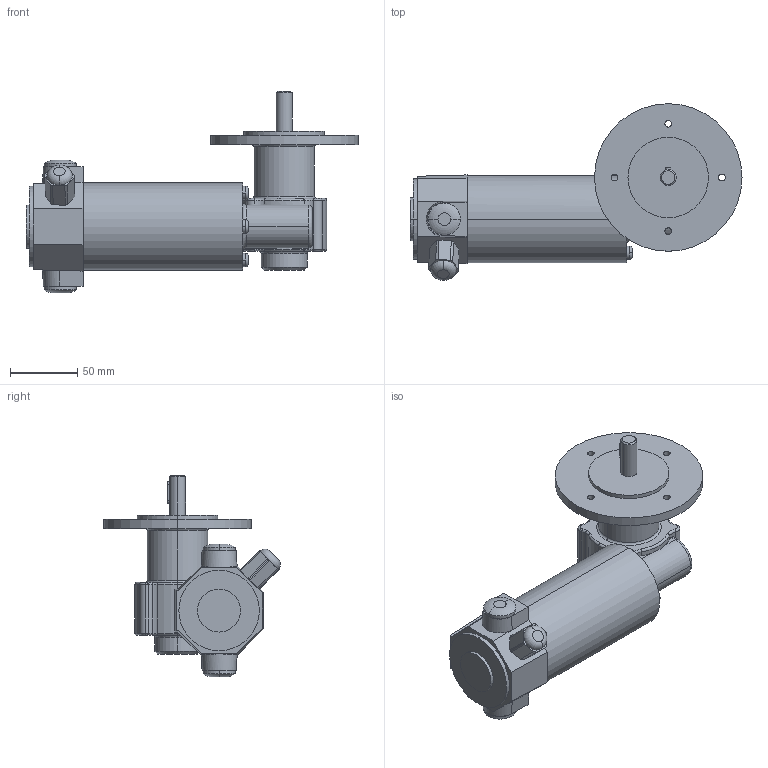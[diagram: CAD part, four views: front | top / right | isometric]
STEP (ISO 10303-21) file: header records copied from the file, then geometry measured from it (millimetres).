
FILE_DESCRIPTION(('OneSpaceDesigner STEP Export'),'2;1');
FILE_NAME('EPG04_GF125-10.stp','2008-07-02T13:32:36',(''),(''),'OneSpace Designer STEP processor (Jan. 2003) for AP214(CD)(Solid Model)','OneSpace Designer 12.01D 09-Jul-2004 (C) CoCreate Software GmbH','');
FILE_SCHEMA(('AUTOMOTIVE_DESIGN_CC2 {1 2 10303 214 -1 1 5 1}'));
Length unit declared in the file: millimetre
Products named in the file (2): EPG04_GF125-10
Assembly tree (1 placements, depth 2):
  EPG04_GF125-10
    EPG04_GF125-10
Bounding box: 247.5 x 131.58 x 150.5 mm (x, y, z)
Volume: 878394.9 mm3; surface area: 86388.9 mm2
Topology: 1 solids, 1 shells, 214 faces, 515 edges, 319 vertices
Faces by surface type: cylinder 85, torus 72, plane 51, cone 4, bspline 2
Entity records: 8138 total; most frequent: CARTESIAN_POINT 3538, ORIENTED_EDGE 1030, DIRECTION 861, EDGE_CURVE 515, AXIS2_PLACEMENT_3D 353, VERTEX_POINT 319, EDGE_LOOP 238, FACE_OUTER_BOUND 214
